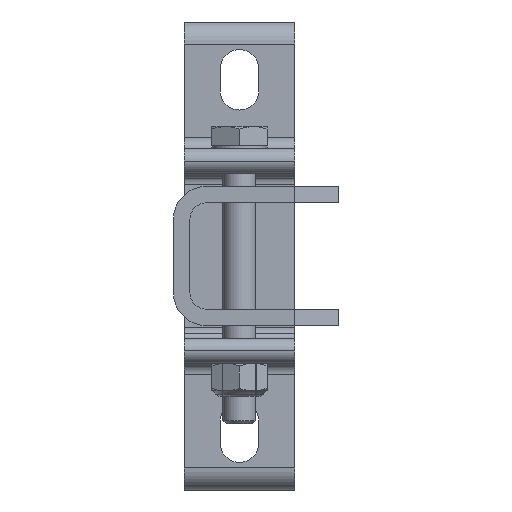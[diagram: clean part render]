
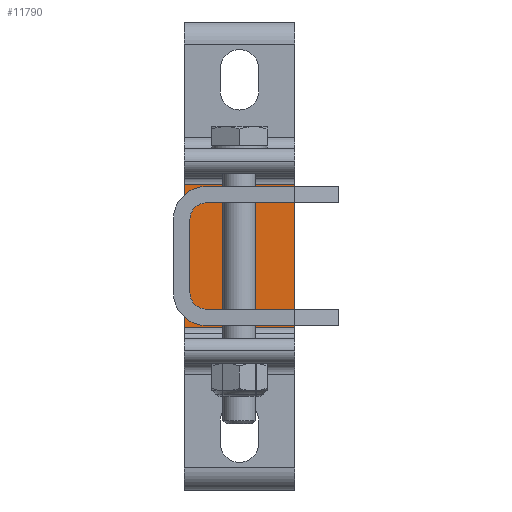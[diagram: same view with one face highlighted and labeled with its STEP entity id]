
A CAD part, front view. The second image highlights one B-rep face of the part: STEP entity #11790.
In plain terms, the highlighted planar face has unit normal (0, -1, 0) as drawn and (0, 1, 0) by its records, which use the part's own axes.
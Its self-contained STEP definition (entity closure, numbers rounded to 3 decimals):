
#918 = LINE ( 'NONE', #23983, #3100 ) ;
#2407 = CARTESIAN_POINT ( 'NONE',  ( 13., 5.5, 10. ) ) ;
#2459 = CARTESIAN_POINT ( 'NONE',  ( 13., 5.5, -10. ) ) ;
#3100 = VECTOR ( 'NONE', #11091, 1000. ) ;
#3701 = VERTEX_POINT ( 'NONE', #2459 ) ;
#3889 = LINE ( 'NONE', #20036, #7105 ) ;
#4056 = ORIENTED_EDGE ( 'NONE', *, *, #9185, .T. ) ;
#7105 = VECTOR ( 'NONE', #7592, 1000. ) ;
#7240 = LINE ( 'NONE', #26619, #15411 ) ;
#7592 = DIRECTION ( 'NONE',  ( 0., 0., 1. ) ) ;
#8102 = DIRECTION ( 'NONE',  ( 0., -1., 0. ) ) ;
#8235 = EDGE_CURVE ( 'NONE', #3701, #25803, #15849, .T. ) ;
#9185 = EDGE_CURVE ( 'NONE', #13711, #3701, #7240, .T. ) ;
#9395 = EDGE_LOOP ( 'NONE', ( #27360, #18814, #23744, #4056 ) ) ;
#9765 = AXIS2_PLACEMENT_3D ( 'NONE', #11371, #8102, #11823 ) ;
#9963 = FACE_OUTER_BOUND ( 'NONE', #9395, .T. ) ;
#10232 = VECTOR ( 'NONE', #13506, 1000. ) ;
#11091 = DIRECTION ( 'NONE',  ( -1., 0., 0. ) ) ;
#11141 = EDGE_CURVE ( 'NONE', #13711, #22078, #918, .T. ) ;
#11371 = CARTESIAN_POINT ( 'NONE',  ( -15., 5.5, 10. ) ) ;
#11440 = DIRECTION ( 'NONE',  ( 0., 0., -1. ) ) ;
#11790 = ADVANCED_FACE ( 'NONE', ( #9963 ), #16876, .F. ) ;
#11823 = DIRECTION ( 'NONE',  ( 0., 0., -1. ) ) ;
#13506 = DIRECTION ( 'NONE',  ( -1., 0., 0. ) ) ;
#13711 = VERTEX_POINT ( 'NONE', #2407 ) ;
#15411 = VECTOR ( 'NONE', #11440, 1000. ) ;
#15849 = LINE ( 'NONE', #27797, #10232 ) ;
#16704 = CARTESIAN_POINT ( 'NONE',  ( -13., 5.5, 10. ) ) ;
#16876 = PLANE ( 'NONE',  #9765 ) ;
#18814 = ORIENTED_EDGE ( 'NONE', *, *, #20865, .T. ) ;
#20036 = CARTESIAN_POINT ( 'NONE',  ( -13., 5.5, 10. ) ) ;
#20865 = EDGE_CURVE ( 'NONE', #25803, #22078, #3889, .T. ) ;
#22078 = VERTEX_POINT ( 'NONE', #16704 ) ;
#23744 = ORIENTED_EDGE ( 'NONE', *, *, #11141, .F. ) ;
#23983 = CARTESIAN_POINT ( 'NONE',  ( -15., 5.5, 10. ) ) ;
#25803 = VERTEX_POINT ( 'NONE', #27294 ) ;
#26619 = CARTESIAN_POINT ( 'NONE',  ( 13., 5.5, -10. ) ) ;
#27294 = CARTESIAN_POINT ( 'NONE',  ( -13., 5.5, -10. ) ) ;
#27360 = ORIENTED_EDGE ( 'NONE', *, *, #8235, .T. ) ;
#27797 = CARTESIAN_POINT ( 'NONE',  ( -15., 5.5, -10. ) ) ;
